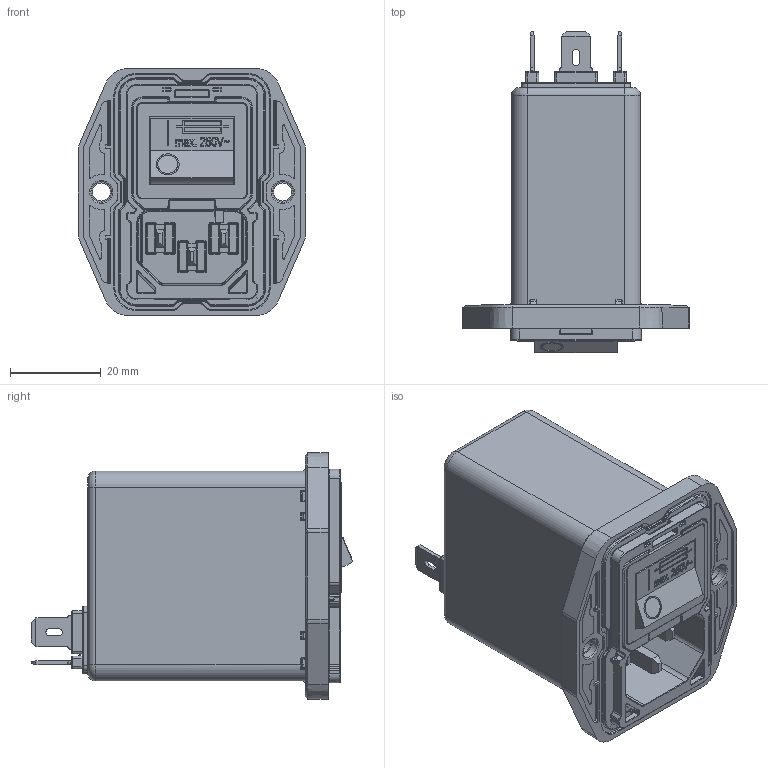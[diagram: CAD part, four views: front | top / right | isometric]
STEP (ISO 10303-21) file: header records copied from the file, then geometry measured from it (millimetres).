
FILE_DESCRIPTION((''),'2;1');
FILE_NAME('H:\02_Projects\A_Others\Z_Support\Luis\Cherry_STP\Step_Files\1 Stage\1_stage_faston_horizontal_back.stp','2012-07-26T15:09:17',('Samuel.Meier'),(''),'Autodesk Inventor 2010','Autodesk Inventor 2010','');
FILE_SCHEMA(('AUTOMOTIVE_DESIGN { 1 2 10303 214 0 1 1 1 }'));
Length unit declared in the file: millimetre
Products named in the file (1): 1_stage_faston_horizontal_back
Bounding box: 50.04 x 70.74 x 54.44 mm (x, y, z)
Surface area: 40652.7 mm2 (no closed solid volume)
Topology: 0 solids, 11 shells, 3415 faces, 9041 edges, 5574 vertices
Faces by surface type: plane 1355, cylinder 1254, bspline 544, torus 99, sphere 91, cone 72
Full cylindrical faces by diameter (mm): 0.8 x4, 1 x2, 1.1 x10, 1.2 x1, 2.7 x1, 3.3 x1, 3.6 x1, 4 x2, 4.5 x2, 6.5 x1, 7.2 x1, 8.2 x1
Entity records: 116821 total; most frequent: CARTESIAN_POINT 30131, ORIENTED_EDGE 17818, DIRECTION 17196, EDGE_CURVE 8909, AXIS2_PLACEMENT_3D 6043, VERTEX_POINT 5568, VECTOR 5110, LINE 5110
